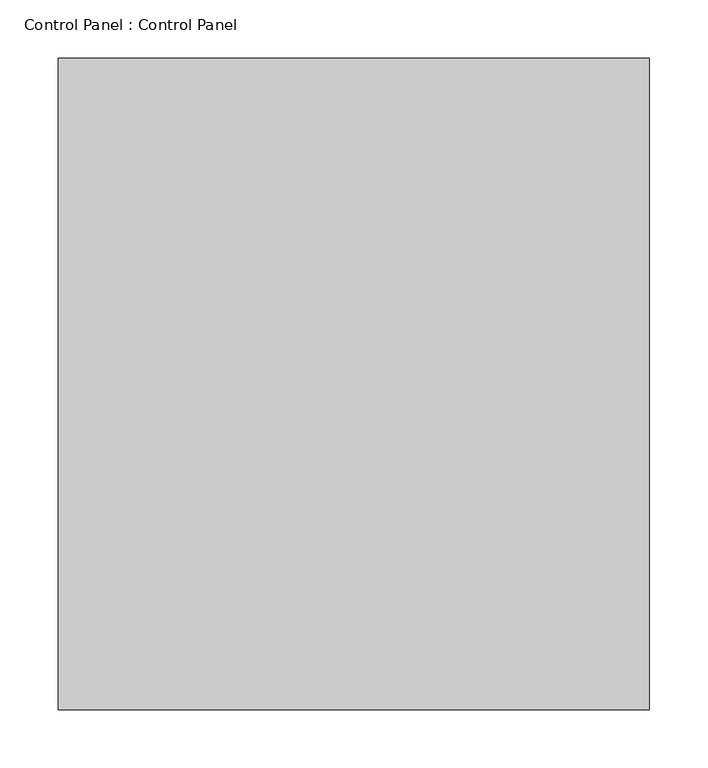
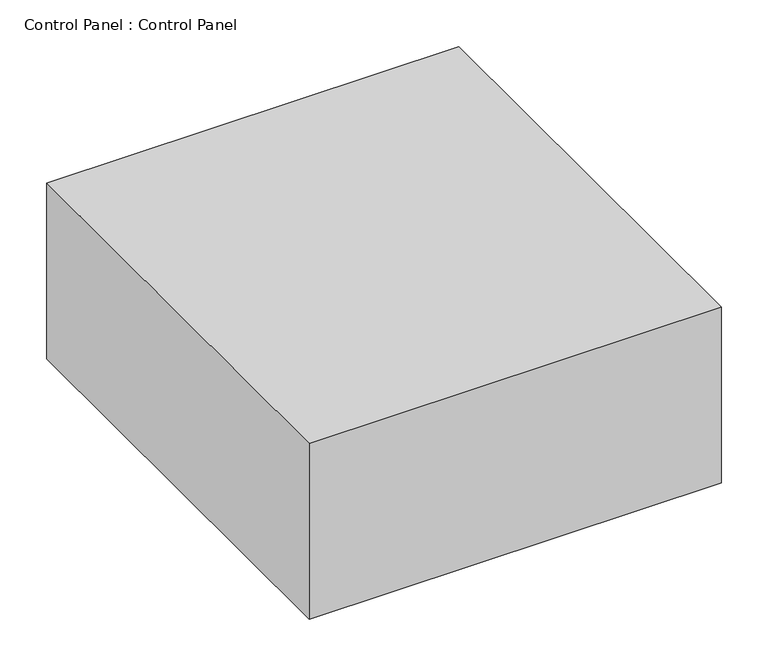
"""IFC4 building model written with IfcOpenShell, lengths in millimetres: proxy geometry, Control Panel : Control Panel."""

from ifc_helpers import new_model, si_unit, origin, origin_with_axes, place, context, project, spatial, polyline, outline, extrude, source, transform, mapped, element, save


def control_panel_control_panel_5b8699bc(model_context):
    return source(origin(), model_context, "Body", "SweptSolid", [
        extrude(outline(polyline([(253.5153326, 279.4), (253.5153326, -279.4), (-253.5153326, -279.4), (-253.5153326, 279.4), (253.5153326, 279.4)])), origin_with_axes(), (0.0, 0.0, 1.0), 228.6),
    ])


if __name__ == "__main__":
    model = new_model("IFC4")
    model_context = context("Model", 3, world=origin())
    ifc_project = project(units=[si_unit("LENGTHUNIT", "METRE", prefix="MILLI")], contexts=[model_context])
    site = spatial("IfcSite", under=ifc_project)
    building = spatial("IfcBuilding", under=site)
    placement = place(None, origin())
    control_panel_control_panel_shape = control_panel_control_panel_5b8699bc(model_context)
    element("IfcBuildingElementProxy", 1, Name="Control Panel : Control Panel", ObjectType="Control Panel : Control Panel", at=placement, inside=building, context=model_context, shape_type="MappedRepresentation", body=[
        mapped(control_panel_control_panel_shape, transform((0.0, 0.0, 0.0), x_axis=(1.0, 0.0, 0.0), y_axis=(0.0, 1.0, 0.0), z_axis=(0.0, 0.0, 1.0))),
    ])
    save(model, "model.ifc")
